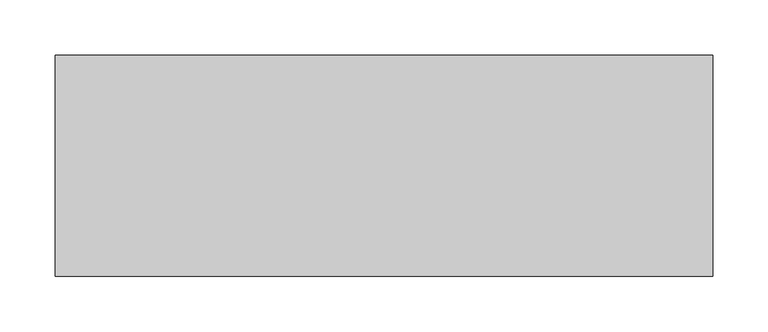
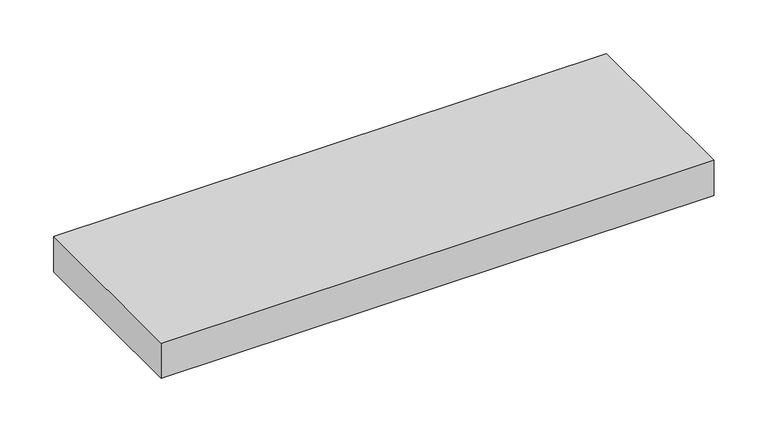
"""IFC4 building model written with IfcOpenShell, lengths in millimetres: light fixture geometry, GENILED_Светильник светодиодный_Офис Advanced : Офис Advanced 595x200x40 20Вт Опал."""

from ifc_helpers import new_model, si_unit, origin, place, context, project, spatial, faceted_brep, source, transform, mapped, element, save


def light_fixture_d129a5be(model_context):
    return source(origin(), model_context, "Body", "Brep", [
        faceted_brep([(297.5, 100.0, 40.0), (-297.5, 100.0, 40.0), (-297.5, -100.0, 40.0), (297.5, -100.0, 40.0), (297.5, 100.0, 0.0), (297.5, -100.0, 0.0), (-297.5, -100.0, 0.0), (-297.5, 100.0, 0.0), (287.5, 90.0, 0.0), (-287.5, 90.0, 0.0), (-287.5, -90.0, 0.0), (287.5, -90.0, 0.0), (287.5, -90.0, 5.0), (287.5, 90.0, 5.0), (-287.5, -90.0, 5.0), (-287.5, 90.0, 5.0)], [[[0, 1, 2, 3]], [[4, 5, 6, 7], [8, 9, 10, 11]], [[1, 0, 4, 7]], [[2, 1, 7, 6]], [[3, 2, 6, 5]], [[0, 3, 5, 4]], [[8, 11, 12, 13]], [[11, 10, 14, 12]], [[10, 9, 15, 14]], [[9, 8, 13, 15]], [[13, 12, 14, 15]]]),
    ])


if __name__ == "__main__":
    model = new_model("IFC4")
    model_context = context("Model", 3, world=origin())
    ifc_project = project(units=[si_unit("LENGTHUNIT", "METRE", prefix="MILLI")], contexts=[model_context])
    site = spatial("IfcSite", under=ifc_project)
    building = spatial("IfcBuilding", under=site)
    placement = place(None, origin())
    light_fixture_shape = light_fixture_d129a5be(model_context)
    element("IfcLightFixture", 1, ObjectType="GENILED_Светильник светодиодный_Офис Advanced : Офис Advanced 595x200x40 20Вт Опал", at=placement, inside=building, context=model_context, shape_type="MappedRepresentation", body=[
        mapped(light_fixture_shape, transform((0.0, 0.0, 0.0), x_axis=(1.0, 0.0, 0.0), y_axis=(0.0, 1.0, 0.0), z_axis=(0.0, 0.0, 1.0))),
    ])
    save(model, "model.ifc")
